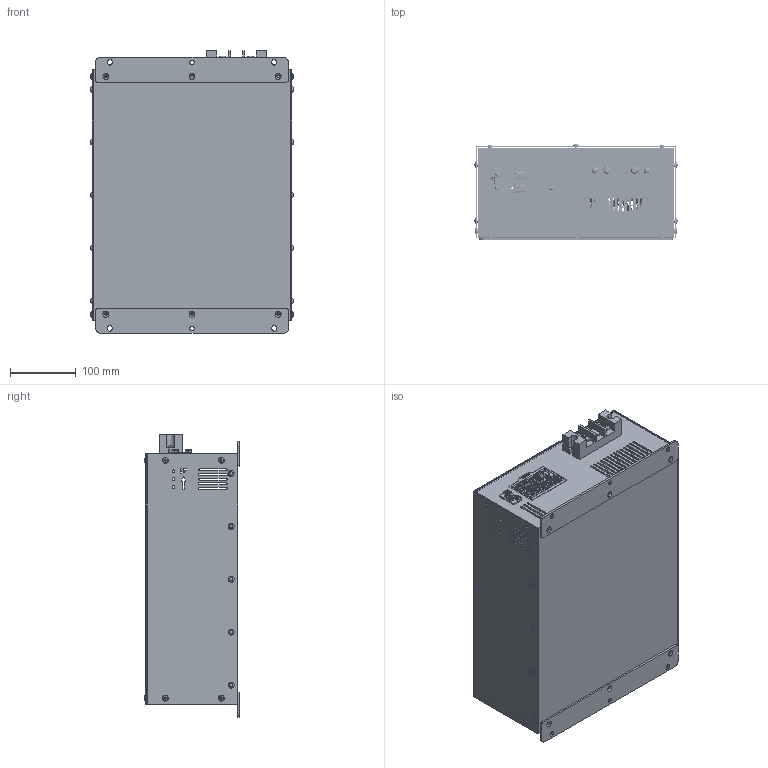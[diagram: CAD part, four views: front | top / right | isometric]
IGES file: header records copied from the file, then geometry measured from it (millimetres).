
Global section: file name: X4COM; native system: Autodesk Inventor 2021; preprocessor: unknown; author: EunSol Jang; date: 20211210.163621; units: millimetre
Bounding box: 309.24 x 145.97 x 430 mm (x, y, z)
Volume: 772644.9 mm3; surface area: 1002117.3 mm2
Topology: 13 solids, 13 shells, 5725 faces, 15514 edges, 10224 vertices
Faces by surface type: bspline 5725
